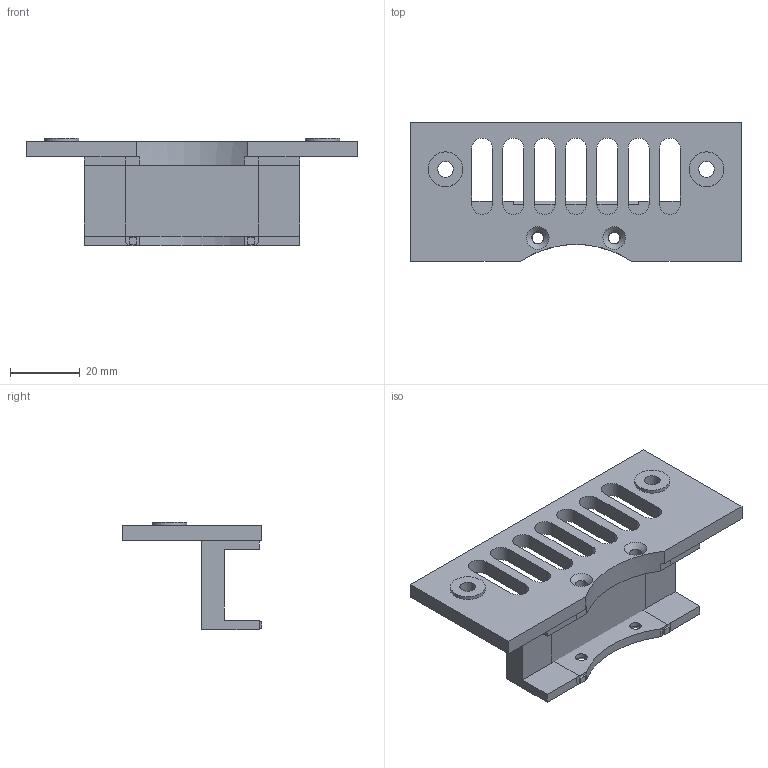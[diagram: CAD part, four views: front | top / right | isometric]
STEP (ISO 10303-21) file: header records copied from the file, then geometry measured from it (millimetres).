
FILE_DESCRIPTION(('Open CASCADE Model'),'2;1');
FILE_NAME('Open CASCADE Shape Model','2026-09-30T12:47:35',('Author'),( 'Open CASCADE'),'Open CASCADE STEP processor 7.9','Open CASCADE 7.9' ,'Unknown');
FILE_SCHEMA(('AUTOMOTIVE_DESIGN { 1 0 10303 214 1 1 1 1 }'));
Length unit declared in the file: millimetre
Products named in the file (1): Open CASCADE STEP translator 7.9 1
Bounding box: 95 x 40 x 31 mm (x, y, z)
Volume: 25294.2 mm3; surface area: 13699.7 mm2
Topology: 1 solids, 1 shells, 112 faces, 317 edges, 206 vertices
Faces by surface type: plane 79, cylinder 27, cone 6
Full cylindrical faces by diameter (mm): 3.3 x2, 3.5 x4, 4.5 x2, 10 x2
Entity records: 8672 total; most frequent: CARTESIAN_POINT 2371, DIRECTION 1157, LINE 762, VECTOR 762, ORIENTED_EDGE 634, PCURVE 634, DEFINITIONAL_REPRESENTATION 634, EDGE_CURVE 317
